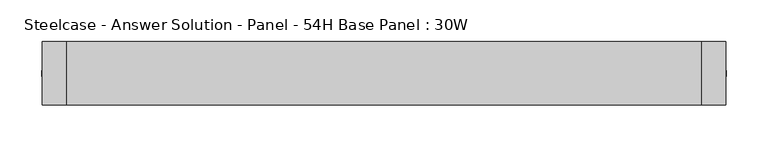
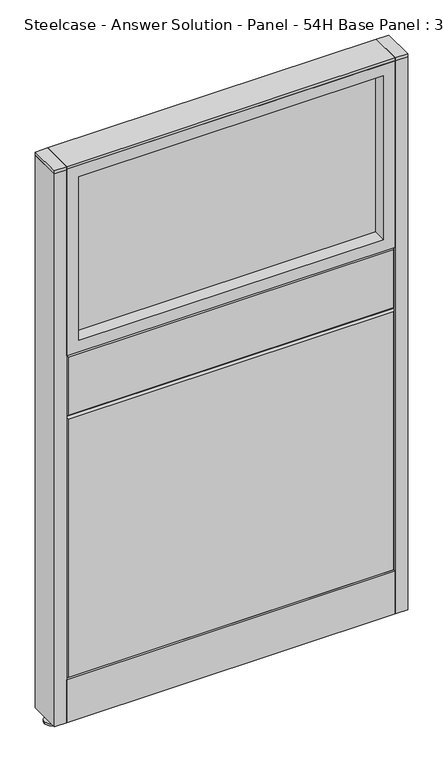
"""IFC4 building model written with IfcOpenShell, lengths in millimetres: furniture geometry, Steelcase - Answer Solution - Panel - 54H Base Panel : 30W."""

import ifcopenshell
import ifcopenshell.guid

model = None  # the IFC model being written
_history = None  # IfcOwnerHistory: only IFC2X3 demands one
_inside = {}  # id of a spatial element -> (the spatial element, [elements in it])
_under = {}  # id of a project, library or spatial element -> (it, [spatial elements below it])
_declared = {}  # id of a project -> (the project, [libraries it declares])
_typed = {}  # id of a type object -> (the type object, [elements of that type])
_made_of = {}  # id of a material, layer set ... -> (it, [elements and type objects made of it])


def new_model(schema):
    """Start an empty IFC model of exactly this schema.

    Asked for "IFC4X3", IfcOpenShell would pick the latest addendum, in which some entities
    have other attributes; the version numbers below select the first issue.
    IFC2X3 requires an IfcOwnerHistory on every rooted entity: one is made here for all.
    """
    global model, _history
    if schema == "IFC4X3":
        model = ifcopenshell.file(schema_version=(4, 3, 0, 0))
    else:
        model = ifcopenshell.file(schema=schema)
    _inside.clear()
    _under.clear()
    _declared.clear()
    _typed.clear()
    _made_of.clear()
    _history = None
    if model.schema == "IFC2X3":
        org = make("IfcOrganization", Name="unknown")
        user = make(
            "IfcPersonAndOrganization",
            ThePerson=make("IfcPerson", FamilyName="unknown"),
            TheOrganization=org,
        )
        app = make(
            "IfcApplication",
            ApplicationDeveloper=org,
            Version="unknown",
            ApplicationFullName="unknown",
            ApplicationIdentifier="unknown",
        )
        _history = make(
            "IfcOwnerHistory",
            OwningUser=user,
            OwningApplication=app,
            ChangeAction="ADDED",
            CreationDate=0,
        )
    return model


def make(cls, **values):
    """One entity of the class cls with the attributes given. An attribute that is None is left unset."""
    return model.create_entity(
        cls, **{name: value for name, value in values.items() if value is not None}
    )


def rooted(cls, **values):
    """An entity with a GlobalId (a new one), such as an element, a storey or a relation."""
    return make(cls, GlobalId=ifcopenshell.guid.new(), OwnerHistory=_history, **values)


def si_unit(unit_type, name, prefix=None):
    """IfcSIUnit, for example si_unit("LENGTHUNIT", "METRE", prefix="MILLI")."""
    return make("IfcSIUnit", UnitType=unit_type, Prefix=prefix, Name=name)


def assignment(units):
    """IfcUnitAssignment: the units of a project."""
    return None if units is None else make("IfcUnitAssignment", Units=units)


def point(xyz):
    """IfcCartesianPoint."""
    return None if xyz is None else make("IfcCartesianPoint", Coordinates=xyz)


def direction(xyz):
    """IfcDirection."""
    return None if xyz is None else make("IfcDirection", DirectionRatios=xyz)


def frame(location, z_axis=None, x_axis=None):
    """IfcAxis2Placement3D, a coordinate frame: its origin and axes. An axis left out is left unset."""
    return make(
        "IfcAxis2Placement3D",
        Location=point(location),
        Axis=direction(z_axis),
        RefDirection=direction(x_axis),
    )


def frame_2d(location, x_axis=None):
    """IfcAxis2Placement2D, a coordinate frame in the plane: its origin and x axis."""
    return make(
        "IfcAxis2Placement2D", Location=point(location), RefDirection=direction(x_axis)
    )


def origin():
    """The frame at (0, 0, 0) with its axes left unset."""
    return frame((0.0, 0.0, 0.0))


def place(relative_to, where):
    """IfcLocalPlacement: puts the frame where relative to a parent placement (None: the world)."""
    return make(
        "IfcLocalPlacement", PlacementRelTo=relative_to, RelativePlacement=where
    )


def context(
    kind, dimensions, precision=None, world=None, true_north=None, identifier=None
):
    """IfcGeometricRepresentationContext, for example the 3D "Model" context."""
    return make(
        "IfcGeometricRepresentationContext",
        ContextIdentifier=identifier,
        ContextType=kind,
        CoordinateSpaceDimension=dimensions,
        Precision=precision,
        WorldCoordinateSystem=world,
        TrueNorth=true_north,
    )


def project(units=None, contexts=None):
    """IfcProject with its units and contexts."""
    return rooted(
        "IfcProject",
        Name="project",
        RepresentationContexts=contexts,
        UnitsInContext=assignment(units),
    )


def spatial(cls, under=None, at=None, **own):
    """A site, building, storey or space (cls), placed at a placement, below another one or the project."""
    s = rooted(cls, ObjectPlacement=at, **own)
    if under is not None:
        _under.setdefault(under.id(), (under, []))[1].append(s)
    return s


def polyline(points):
    """IfcPolyline through the points."""
    return make("IfcPolyline", Points=[point(p) for p in points])


def circle_curve(where, radius):
    """IfcCircle in the frame where."""
    return make("IfcCircle", Position=where, Radius=radius)


def trimmed(basis, trim1, trim2, sense, master):
    """IfcTrimmedCurve: the piece of a basis curve between two trims."""
    return make(
        "IfcTrimmedCurve",
        BasisCurve=basis,
        Trim1=trim1,
        Trim2=trim2,
        SenseAgreement=sense,
        MasterRepresentation=master,
    )


def segment(curve, same_sense, transition):
    """IfcCompositeCurveSegment."""
    return make(
        "IfcCompositeCurveSegment",
        Transition=transition,
        SameSense=same_sense,
        ParentCurve=curve,
    )


def composite_curve(segments, self_intersect=None):
    """IfcCompositeCurve: segments joined end to end."""
    return make("IfcCompositeCurve", Segments=segments, SelfIntersect=self_intersect)


def outline(outer, holes=None, kind="AREA"):
    """IfcArbitraryClosedProfileDef: a profile drawn as a closed curve; with holes, ...WithVoids."""
    if holes is None:
        return make("IfcArbitraryClosedProfileDef", ProfileType=kind, OuterCurve=outer)
    return make(
        "IfcArbitraryProfileDefWithVoids",
        ProfileType=kind,
        OuterCurve=outer,
        InnerCurves=holes,
    )


def extrude(swept, where, along, depth):
    """IfcExtrudedAreaSolid: the profile swept, set in the frame where, extruded along a direction by depth."""
    return make(
        "IfcExtrudedAreaSolid",
        SweptArea=swept,
        Position=where,
        ExtrudedDirection=direction(along),
        Depth=depth,
    )


def faces_of(points, faces, orient=None, outer=None):
    """IfcFace entities. A face is a list of loops; a loop is a list of indices into points, from 0.

    orient and outer hold one flag for each loop. By default every Orientation is true, the
    first loop of a face is its IfcFaceOuterBound and the others are IfcFaceBound.
    """
    made = []
    for i, loops in enumerate(faces):
        bounds = []
        for j, loop in enumerate(loops):
            is_outer = j == 0 if outer is None else outer[i][j]
            bounds.append(
                make(
                    "IfcFaceOuterBound" if is_outer else "IfcFaceBound",
                    Bound=make("IfcPolyLoop", Polygon=[points[k] for k in loop]),
                    Orientation=True if orient is None else orient[i][j],
                )
            )
        made.append(make("IfcFace", Bounds=bounds))
    return made


def faceted_brep(points, faces, orient=None, outer=None, voids=None):
    """IfcFacetedBrep: a solid bounded by flat faces; with voids (closed shells), ...WithVoids."""
    shared = [point(p) for p in points]
    hull = make("IfcClosedShell", CfsFaces=faces_of(shared, faces, orient, outer))
    if voids is None:
        return make("IfcFacetedBrep", Outer=hull)
    return make(
        "IfcFacetedBrepWithVoids",
        Outer=hull,
        Voids=[
            make(cls, CfsFaces=faces_of(shared, fs, o, b)) for cls, fs, o, b in voids
        ],
    )


def shape(context_of_items, identifier, shape_type, items):
    """IfcShapeRepresentation: the items that make up one representation, for example the "Body"."""
    return make(
        "IfcShapeRepresentation",
        ContextOfItems=context_of_items,
        RepresentationIdentifier=identifier,
        RepresentationType=shape_type,
        Items=items,
    )


def source(mapping_origin, context_of_items, identifier, shape_type, items):
    """IfcRepresentationMap: a shape defined once, which mapped items show again and again."""
    return make(
        "IfcRepresentationMap",
        MappingOrigin=mapping_origin,
        MappedRepresentation=shape(context_of_items, identifier, shape_type, items),
    )


def transform(
    local_origin,
    x_axis=None,
    y_axis=None,
    z_axis=None,
    scale=None,
    scale2=None,
    scale3=None,
    uniform=True,
):
    """IfcCartesianTransformationOperator3D, or its non-uniform kind. x_axis, y_axis, z_axis: its Axis1, 2, 3."""
    if uniform:
        return make(
            "IfcCartesianTransformationOperator3D",
            Axis1=direction(x_axis),
            Axis2=direction(y_axis),
            LocalOrigin=point(local_origin),
            Scale=scale,
            Axis3=direction(z_axis),
        )
    return make(
        "IfcCartesianTransformationOperator3DnonUniform",
        Axis1=direction(x_axis),
        Axis2=direction(y_axis),
        LocalOrigin=point(local_origin),
        Scale=scale,
        Axis3=direction(z_axis),
        Scale2=scale2,
        Scale3=scale3,
    )


def mapped(mapping_source, mapping_target):
    """IfcMappedItem: shows the shape of a source again, moved by a transform."""
    return make(
        "IfcMappedItem", MappingSource=mapping_source, MappingTarget=mapping_target
    )


def made_of(thing, what):
    """Note that an element or type object is made of a material, layer set ...; save() writes the relation."""
    if what is not None:
        _made_of.setdefault(what.id(), (what, []))[1].append(thing)
    return thing


def element(
    cls,
    number,
    at=None,
    inside=None,
    cuts=None,
    type_object=None,
    material=None,
    context=None,
    identifier="Body",
    shape_type=None,
    held_by="IfcProductDefinitionShape",
    body=None,
    shapes=None,
    **own,
):
    """One element of the class cls, such as IfcWall. Its Tag is "e" and its number.

    at: its placement. inside: the storey or other place that contains it. cuts: it is an
    opening in that element (IfcRelVoidsElement). A single representation is given by context,
    identifier, shape_type and body (its items); several are given by shapes. held_by: the class
    of the entity that holds the representations. save() writes the other relations.
    """
    e = rooted(cls, Tag="e%d" % number, ObjectPlacement=at, **own)
    if body is not None:
        shapes = [shape(context, identifier, shape_type, body)]
    if shapes is not None:
        e.Representation = make(held_by, Representations=shapes)
    if inside is not None:
        _inside.setdefault(inside.id(), (inside, []))[1].append(e)
    if cuts is not None:
        rooted(
            "IfcRelVoidsElement", RelatingBuildingElement=cuts, RelatedOpeningElement=e
        )
    if type_object is not None:
        _typed.setdefault(type_object.id(), (type_object, []))[1].append(e)
    return made_of(e, material)


def aggregate(whole, parts):
    """IfcRelAggregates: a whole, such as a stair, and the parts it consists of."""
    return rooted("IfcRelAggregates", RelatingObject=whole, RelatedObjects=parts)


def save(model, path):
    """Write the relations noted so far, then the file.

    IfcRelAggregates (storeys below a building ...), IfcRelContainedInSpatialStructure (elements
    in a storey), IfcRelDefinesByType, IfcRelAssociatesMaterial and IfcRelDeclares: one each for
    every whole, place, type object, material and project.
    """
    for whole, parts in _under.values():
        aggregate(whole, parts)
    for where, things in _inside.values():
        rooted(
            "IfcRelContainedInSpatialStructure",
            RelatedElements=things,
            RelatingStructure=where,
        )
    for kind, things in _typed.values():
        rooted("IfcRelDefinesByType", RelatedObjects=things, RelatingType=kind)
    for what, things in _made_of.values():
        rooted("IfcRelAssociatesMaterial", RelatedObjects=things, RelatingMaterial=what)
    for by, libraries in _declared.values():
        rooted("IfcRelDeclares", RelatingContext=by, RelatedDefinitions=libraries)
    model.write(path)


def steelcase_answer_solution_panel_54h_base_panel_30w_b0ca96f8(model_context):
    return source(origin(), model_context, "Body", "SolidModel", [
        extrude(outline(composite_curve([segment(trimmed(circle_curve(frame_2d((395.224, 0.0320214)), 5.08), [point((400.304, 0.0320214))], [point((390.144, 0.0320214))], False, "CARTESIAN"), True, "CONTINUOUS"), segment(trimmed(circle_curve(frame_2d((395.224, 0.0320214)), 5.08), [point((390.144, 0.0320214))], [point((400.304, 0.0320214))], False, "CARTESIAN"), True, "CONTINUOUS")], self_intersect=False)), frame((0.0, 0.0, 5.0799671), z_axis=(0.0, 0.0, 1.0), x_axis=(1.0, 0.0, 0.0)), (0.0, 0.0, 1.0), 10.414),
        extrude(outline(composite_curve([segment(trimmed(circle_curve(frame_2d((395.224, 0.0320214)), 15.24), [point((410.464, 0.0320214))], [point((379.984, 0.0320214))], False, "CARTESIAN"), True, "CONTINUOUS"), segment(trimmed(circle_curve(frame_2d((395.224, 0.0320214)), 15.24), [point((379.984, 0.0320214))], [point((410.464, 0.0320214))], False, "CARTESIAN"), True, "CONTINUOUS")], self_intersect=False)), frame((0.0, 0.0, -3.29e-05), z_axis=(0.0, 0.0, 1.0), x_axis=(1.0, 0.0, 0.0)), (0.0, 0.0, 1.0), 5.08),
        extrude(outline(polyline([(409.575, 38.1320408), (409.575, -38.0679592), (381.0, -38.0679592), (381.0, 38.1320408), (409.575, 38.1320408)])), frame((0.0, 0.0, 1370.6348), z_axis=(0.0, 0.0, 1.0), x_axis=(1.0, 0.0, 0.0)), (0.0, 0.0, 1.0), 7.3151671),
        extrude(outline(polyline([(409.575, 38.1320408), (409.575, -38.0679592), (381.0, -38.0679592), (381.0, 38.1320408), (409.575, 38.1320408)])), frame((0.0, 0.0, 15.4939671), z_axis=(0.0, 0.0, 1.0), x_axis=(1.0, 0.0, 0.0)), (0.0, 0.0, 1.0), 1355.1408329),
        extrude(outline(composite_curve([segment(trimmed(circle_curve(frame_2d((-395.224, 0.0320214)), 5.08), [point((-400.304, 0.0320214))], [point((-390.144, 0.0320214))], False, "CARTESIAN"), True, "CONTINUOUS"), segment(trimmed(circle_curve(frame_2d((-395.224, 0.0320214)), 5.08), [point((-390.144, 0.0320214))], [point((-400.304, 0.0320214))], False, "CARTESIAN"), True, "CONTINUOUS")], self_intersect=False)), frame((0.0, 0.0, 5.0799671), z_axis=(0.0, 0.0, 1.0), x_axis=(1.0, 0.0, 0.0)), (0.0, 0.0, 1.0), 10.414),
        extrude(outline(composite_curve([segment(trimmed(circle_curve(frame_2d((-395.224, 0.0320214)), 15.24), [point((-410.464, 0.0320214))], [point((-379.984, 0.0320214))], False, "CARTESIAN"), True, "CONTINUOUS"), segment(trimmed(circle_curve(frame_2d((-395.224, 0.0320214)), 15.24), [point((-379.984, 0.0320214))], [point((-410.464, 0.0320214))], False, "CARTESIAN"), True, "CONTINUOUS")], self_intersect=False)), frame((0.0, 0.0, -3.29e-05), z_axis=(0.0, 0.0, 1.0), x_axis=(1.0, 0.0, 0.0)), (0.0, 0.0, 1.0), 5.08),
        extrude(outline(polyline([(-409.575, 38.1320408), (-381.0, 38.1320408), (-381.0, -38.0679592), (-409.575, -38.0679592), (-409.575, 38.1320408)])), frame((0.0, 0.0, 1370.6348), z_axis=(0.0, 0.0, 1.0), x_axis=(1.0, 0.0, 0.0)), (0.0, 0.0, 1.0), 7.3151671),
        extrude(outline(polyline([(-409.575, 38.1320408), (-381.0, 38.1320408), (-381.0, -38.0679592), (-409.575, -38.0679592), (-409.575, 38.1320408)])), frame((0.0, 0.0, 15.4939671), z_axis=(0.0, 0.0, 1.0), x_axis=(1.0, 0.0, 0.0)), (0.0, 0.0, 1.0), 1355.1408329),
        extrude(outline(polyline([(-353.06, 6.346049), (353.06, 6.346049), (353.06, -6.353951), (-353.06, -6.353951), (-353.06, 6.346049)])), frame((0.0, 0.0, 942.34), z_axis=(0.0, 0.0, 1.0), x_axis=(1.0, 0.0, 0.0)), (0.0, 0.0, 1.0), 401.32),
        extrude(outline(polyline([(1371.6, -381.0), (914.4, -381.0), (914.4, 381.0), (1371.6, 381.0), (1371.6, -381.0)]), holes=[polyline([(1343.66, -353.06), (1343.66, 353.06), (942.34, 353.06), (942.34, -353.06), (1343.66, -353.06)])]), frame((0.0, -38.103951, 0.0), z_axis=(0.0, 1.0, 0.0), x_axis=(0.0, 0.0, 1.0)), (0.0, 0.0, 1.0), 76.2),
        faceted_brep([(-376.174, 38.1635011, 909.574), (376.174, 38.1635011, 909.574), (376.174, 38.1635011, 766.826), (-376.174, 38.1635011, 766.826), (-381.0, 33.3375011, 914.4), (-381.0, 33.3375011, 762.0), (381.0, 33.3375011, 762.0), (381.0, 33.3375011, 914.4)], [[[0, 1, 2, 3]], [[4, 5, 6, 7]], [[4, 7, 1, 0]], [[7, 6, 2, 1]], [[6, 5, 3, 2]], [[5, 4, 0, 3]]]),
        faceted_brep([(-376.174, 38.1635011, 757.174), (376.174, 38.1635011, 757.174), (376.174, 38.1635011, 125.476), (-376.174, 38.1635011, 125.476), (-381.0, 33.3375011, 762.0), (-381.0, 33.3375011, 120.65), (381.0, 33.3375011, 120.65), (381.0, 33.3375011, 762.0)], [[[0, 1, 2, 3]], [[4, 5, 6, 7]], [[4, 7, 1, 0]], [[7, 6, 2, 1]], [[6, 5, 3, 2]], [[5, 4, 0, 3]]]),
        extrude(outline(polyline([(353.06, -6.346049), (-353.06, -6.346049), (-353.06, 6.353951), (353.06, 6.353951), (353.06, -6.346049)])), frame((0.0, 0.0, 942.34), z_axis=(0.0, 0.0, 1.0), x_axis=(1.0, 0.0, 0.0)), (0.0, 0.0, 1.0), 401.32),
        extrude(outline(polyline([(1371.6, 381.0), (1371.6, -381.0), (914.4, -381.0), (914.4, 381.0), (1371.6, 381.0)]), holes=[polyline([(1343.66, 353.06), (942.34, 353.06), (942.34, -353.06), (1343.66, -353.06), (1343.66, 353.06)])]), frame((0.0, -38.096049, 0.0), z_axis=(0.0, 1.0, 0.0), x_axis=(0.0, 0.0, 1.0)), (0.0, 0.0, 1.0), 76.2),
        faceted_brep([(376.174, -38.1635011, 909.574), (-376.174, -38.1635011, 909.574), (-376.174, -38.1635011, 766.826), (376.174, -38.1635011, 766.826), (381.0, -33.3375011, 914.4), (381.0, -33.3375011, 762.0), (-381.0, -33.3375011, 762.0), (-381.0, -33.3375011, 914.4)], [[[0, 1, 2, 3]], [[4, 5, 6, 7]], [[4, 7, 1, 0]], [[7, 6, 2, 1]], [[6, 5, 3, 2]], [[5, 4, 0, 3]]]),
        faceted_brep([(376.174, -38.1635011, 757.174), (-376.174, -38.1635011, 757.174), (-376.174, -38.1635011, 125.476), (376.174, -38.1635011, 125.476), (381.0, -33.3375011, 762.0), (381.0, -33.3375011, 120.65), (-381.0, -33.3375011, 120.65), (-381.0, -33.3375011, 762.0)], [[[0, 1, 2, 3]], [[4, 5, 6, 7]], [[4, 7, 1, 0]], [[7, 6, 2, 1]], [[6, 5, 3, 2]], [[5, 4, 0, 3]]]),
        extrude(outline(polyline([(381.0, 38.1000194), (381.0, -38.1000194), (-381.0, -38.1000194), (-381.0, 38.1000194), (381.0, 38.1000194)])), frame((0.0, 0.0, 1371.6), z_axis=(0.0, 0.0, 1.0), x_axis=(1.0, 0.0, 0.0)), (0.0, 0.0, 1.0), 6.35),
        extrude(outline(polyline([(25.4000011, 119.8575157), (25.4000011, 120.65), (38.1000194, 120.65), (38.1000194, 15.494), (37.3075215, 15.494), (37.3075215, 119.8575157), (25.4000011, 119.8575157)])), frame((-381.0, 0.0, 0.0), z_axis=(1.0, 0.0, 0.0), x_axis=(0.0, 1.0, 0.0)), (0.0, 0.0, 1.0), 762.0),
        extrude(outline(polyline([(-25.4000011, 119.8575157), (-37.3075215, 119.8575157), (-37.3075215, 15.494), (-38.1000194, 15.494), (-38.1000194, 120.65), (-25.4000011, 120.65), (-25.4000011, 119.8575157)])), frame((-381.0, 0.0, 0.0), z_axis=(1.0, 0.0, 0.0), x_axis=(0.0, 1.0, 0.0)), (0.0, 0.0, 1.0), 762.0),
    ])


if __name__ == "__main__":
    model = new_model("IFC4")
    model_context = context("Model", 3, world=origin())
    ifc_project = project(units=[si_unit("LENGTHUNIT", "METRE", prefix="MILLI")], contexts=[model_context])
    site = spatial("IfcSite", under=ifc_project)
    building = spatial("IfcBuilding", under=site)
    placement = place(None, origin())
    steelcase_answer_solution_panel_54h_base_panel_30w_shape = steelcase_answer_solution_panel_54h_base_panel_30w_b0ca96f8(model_context)
    element("IfcFurniture", 1, ObjectType="Steelcase - Answer Solution - Panel - 54H Base Panel : 30W", at=placement, inside=building, context=model_context, shape_type="MappedRepresentation", body=[
        mapped(steelcase_answer_solution_panel_54h_base_panel_30w_shape, transform((0.0, 0.0, 0.0), x_axis=(1.0, 0.0, 0.0), y_axis=(0.0, 1.0, 0.0), z_axis=(0.0, 0.0, 1.0))),
    ])
    save(model, "model.ifc")
